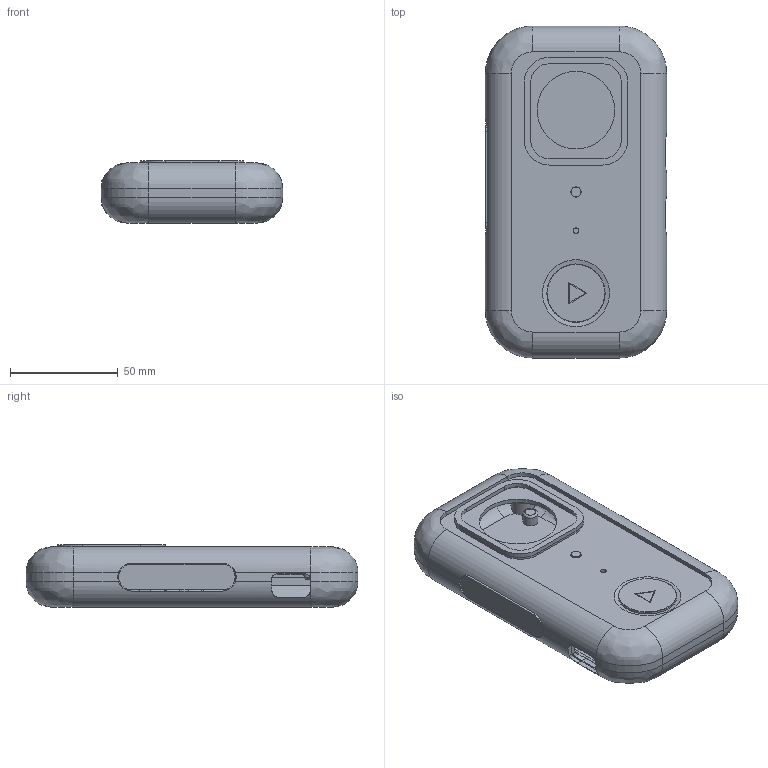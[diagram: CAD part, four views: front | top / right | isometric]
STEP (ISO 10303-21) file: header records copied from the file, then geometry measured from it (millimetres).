
FILE_DESCRIPTION(/* description */ (''),/* implementation_level */ '2;1');
FILE_NAME(/* name */ 'Walkie_One_28_6_13_BODY_REVIEW_ASSEMBLY.step',/* time_stamp */ '2026-09-19T10:15:32-07:00',/* author */ (''),/* organization */ (''),/* preprocessor_version */ 'ST-DEVELOPER v20.2',/* originating_system */ 'Autodesk Translation Framework v15.15.0.0',/* authorisation */ '');
FILE_SCHEMA (('AUTOMOTIVE_DESIGN { 1 0 10303 214 3 1 1 }'));
Length unit declared in the file: millimetre
Products named in the file (14): 2026-09-19-10-15-30-944; 2026-09-19-10-15-31-053; 2026-09-19-10-15-31-130; 2026-09-19-10-15-31-174; 2026-09-19-10-15-31-213; 2026-09-19-10-15-31-250; 2026-09-19-10-15-31-274; 2026-09-19-10-15-31-298; 2026-09-19-10-15-31-526; 2026-09-19-10-15-31-771; 2026-09-19-10-15-31-805; 2026-09-19-10-15-31-841; 2026-09-19-10-15-31-895; 2026-09-19-10-15-31-936
Assembly tree (13 placements, depth 2):
  2026-09-19-10-15-30-944
    2026-09-19-10-15-31-053
    2026-09-19-10-15-31-130
    2026-09-19-10-15-31-174
    2026-09-19-10-15-31-213
    2026-09-19-10-15-31-250
    2026-09-19-10-15-31-274
    2026-09-19-10-15-31-298
    2026-09-19-10-15-31-526
    2026-09-19-10-15-31-771
    2026-09-19-10-15-31-805
    2026-09-19-10-15-31-841
    2026-09-19-10-15-31-895
    2026-09-19-10-15-31-936
Bounding box: 84.2 x 154.2 x 28.95 mm (x, y, z)
Volume: 99979.5 mm3; surface area: 102219.7 mm2
Topology: 13 solids, 13 shells, 753 faces, 1943 edges, 1250 vertices
Faces by surface type: plane 391, cylinder 275, bspline 40, torus 31, cone 16
Full cylindrical faces by diameter (mm): 2 x9, 2.602 x1, 2.8 x1, 3 x8, 3.1 x1, 3.101 x1, 4.3 x1, 4.7 x1, 4.81 x1, 5.2 x1, 5.4 x1, 5.5 x6, 6 x4, 6.189 x1, 6.5 x2, 7 x3, 26.8 x1, 27 x1, 27.1 x1, 27.3 x1, 36 x1
Entity records: 26189 total; most frequent: CARTESIAN_POINT 7329, ORIENTED_EDGE 3886, DIRECTION 3835, EDGE_CURVE 1943, AXIS2_PLACEMENT_3D 1349, VERTEX_POINT 1250, LINE 1137, VECTOR 1137
